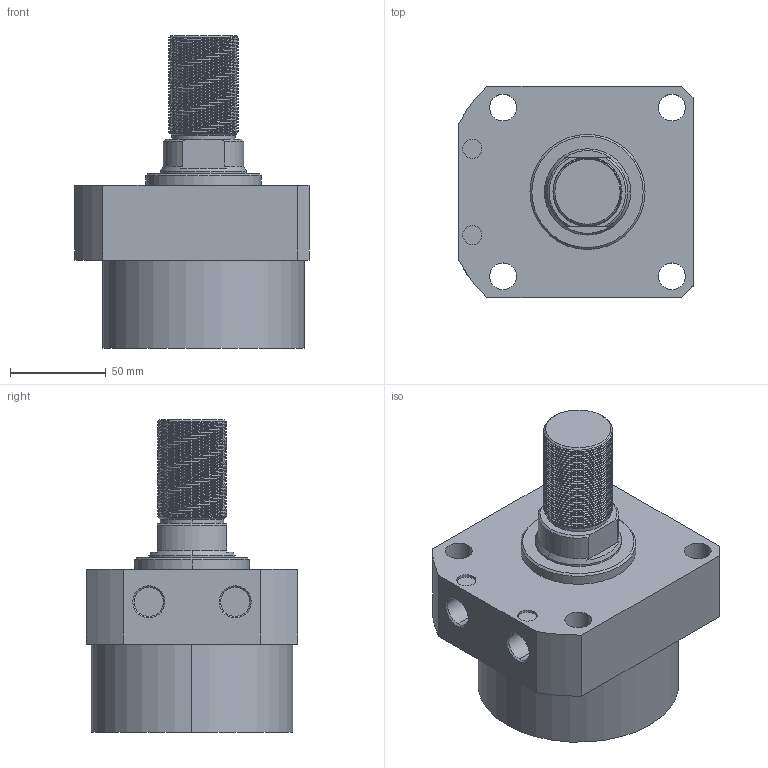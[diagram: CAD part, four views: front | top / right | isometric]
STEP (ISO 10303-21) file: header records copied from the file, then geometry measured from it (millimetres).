
FILE_DESCRIPTION (( 'STEP AP214' ), '1' );
FILE_NAME ('CLLR-105CT-025.STEP', '2020-01-09T07:21:35', ( 'Windows' ), ( 'Microsoft' ), 'SwSTEP 2.0', 'SolidWorks 2015', '' );
FILE_SCHEMA (( 'AUTOMOTIVE_DESIGN' ));
Length unit declared in the file: millimetre
Products named in the file (1): CLLR-105CT-025
Bounding box: 122 x 110 x 163 mm (x, y, z)
Volume: 971439.2 mm3; surface area: 79202.3 mm2
Topology: 1 solids, 1 shells, 135 faces, 362 edges, 237 vertices
Faces by surface type: cylinder 97, plane 20, cone 16, bspline 2
Entity records: 7879 total; most frequent: CARTESIAN_POINT 4820, ORIENTED_EDGE 724, DIRECTION 556, EDGE_CURVE 362, VERTEX_POINT 237, AXIS2_PLACEMENT_3D 211, EDGE_LOOP 151, FACE_OUTER_BOUND 135
